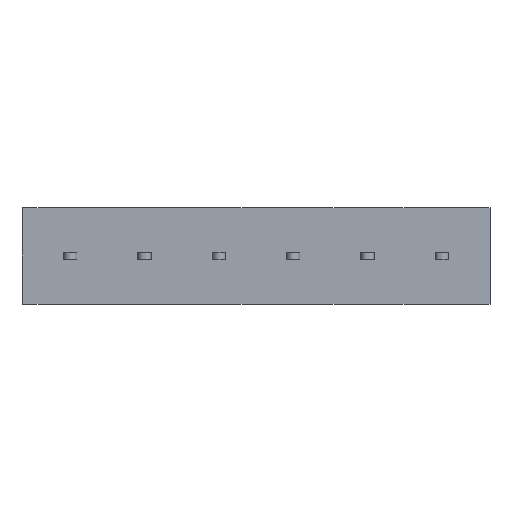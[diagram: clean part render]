
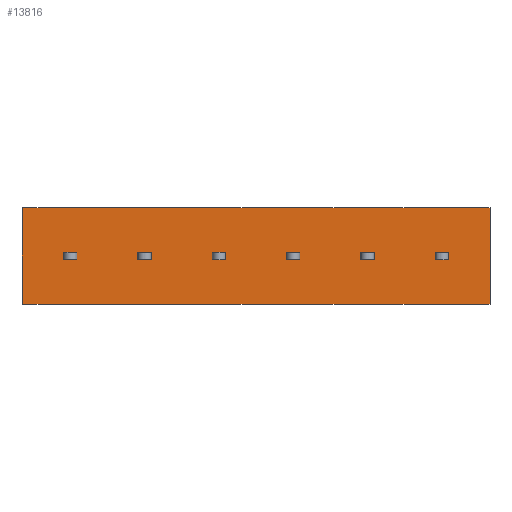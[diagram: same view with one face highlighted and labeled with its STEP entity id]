
A CAD part, front view. The second image highlights one B-rep face of the part: STEP entity #13816.
In plain terms, the highlighted planar face has unit normal (0, -1, 0).
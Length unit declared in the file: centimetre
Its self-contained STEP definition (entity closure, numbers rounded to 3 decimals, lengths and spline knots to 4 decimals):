
#688=VECTOR('',#14802,1.);
#691=VECTOR('',#14808,1.);
#700=VECTOR('',#14831,1.);
#703=VECTOR('',#14839,1.);
#1105=VECTOR('',#15383,1.);
#1194=VECTOR('',#15608,1.);
#1198=VECTOR('',#15613,1.);
#1209=VECTOR('',#15646,1.);
#1211=VECTOR('',#15649,1.);
#1312=VECTOR('',#15896,1.);
#1316=VECTOR('',#15901,1.);
#1327=VECTOR('',#15934,1.);
#1329=VECTOR('',#15937,1.);
#1430=VECTOR('',#16184,1.);
#1434=VECTOR('',#16189,1.);
#1445=VECTOR('',#16222,1.);
#1447=VECTOR('',#16225,1.);
#1548=VECTOR('',#16472,1.);
#1552=VECTOR('',#16477,1.);
#1563=VECTOR('',#16510,1.);
#1565=VECTOR('',#16513,1.);
#1666=VECTOR('',#16760,1.);
#1670=VECTOR('',#16765,1.);
#1681=VECTOR('',#16798,1.);
#1683=VECTOR('',#16801,1.);
#1732=VECTOR('',#16882,1.);
#1740=VECTOR('',#16891,1.);
#1741=VECTOR('',#16892,1.);
#2234=LINE('',#17736,#688);
#2237=LINE('',#17745,#691);
#2246=LINE('',#17768,#700);
#2249=LINE('',#17776,#703);
#2651=LINE('',#19280,#1105);
#2740=LINE('',#19590,#1194);
#2744=LINE('',#19599,#1198);
#2755=LINE('',#19634,#1209);
#2757=LINE('',#19638,#1211);
#2858=LINE('',#19972,#1312);
#2862=LINE('',#19981,#1316);
#2873=LINE('',#20016,#1327);
#2875=LINE('',#20020,#1329);
#2976=LINE('',#20354,#1430);
#2980=LINE('',#20363,#1434);
#2991=LINE('',#20398,#1445);
#2993=LINE('',#20402,#1447);
#3094=LINE('',#20736,#1548);
#3098=LINE('',#20745,#1552);
#3109=LINE('',#20780,#1563);
#3111=LINE('',#20784,#1565);
#3212=LINE('',#21118,#1666);
#3216=LINE('',#21127,#1670);
#3227=LINE('',#21162,#1681);
#3229=LINE('',#21166,#1683);
#3278=LINE('',#21267,#1732);
#3286=LINE('',#21284,#1740);
#3287=LINE('',#21285,#1741);
#3795=VERTEX_POINT('',#17737);
#3796=VERTEX_POINT('',#17738);
#3799=VERTEX_POINT('',#17746);
#3804=VERTEX_POINT('',#17769);
#4142=VERTEX_POINT('',#19278);
#4144=VERTEX_POINT('',#19281);
#4240=VERTEX_POINT('',#19591);
#4241=VERTEX_POINT('',#19592);
#4244=VERTEX_POINT('',#19600);
#4255=VERTEX_POINT('',#19635);
#4354=VERTEX_POINT('',#19973);
#4355=VERTEX_POINT('',#19974);
#4358=VERTEX_POINT('',#19982);
#4369=VERTEX_POINT('',#20017);
#4468=VERTEX_POINT('',#20355);
#4469=VERTEX_POINT('',#20356);
#4472=VERTEX_POINT('',#20364);
#4483=VERTEX_POINT('',#20399);
#4582=VERTEX_POINT('',#20737);
#4583=VERTEX_POINT('',#20738);
#4586=VERTEX_POINT('',#20746);
#4597=VERTEX_POINT('',#20781);
#4696=VERTEX_POINT('',#21119);
#4697=VERTEX_POINT('',#21120);
#4700=VERTEX_POINT('',#21128);
#4711=VERTEX_POINT('',#21163);
#4736=VERTEX_POINT('',#21268);
#4737=VERTEX_POINT('',#21269);
#5421=EDGE_CURVE('',#3795,#3796,#2234,.T.);
#5425=EDGE_CURVE('',#3796,#3799,#2237,.T.);
#5437=EDGE_CURVE('',#3799,#3804,#2246,.T.);
#5441=EDGE_CURVE('',#3804,#3795,#2249,.T.);
#5949=EDGE_CURVE('',#4144,#4142,#2651,.T.);
#6084=EDGE_CURVE('',#4240,#4241,#2740,.T.);
#6088=EDGE_CURVE('',#4244,#4240,#2744,.T.);
#6105=EDGE_CURVE('',#4255,#4244,#2755,.T.);
#6107=EDGE_CURVE('',#4241,#4255,#2757,.T.);
#6254=EDGE_CURVE('',#4354,#4355,#2858,.T.);
#6258=EDGE_CURVE('',#4358,#4354,#2862,.T.);
#6275=EDGE_CURVE('',#4369,#4358,#2873,.T.);
#6277=EDGE_CURVE('',#4355,#4369,#2875,.T.);
#6424=EDGE_CURVE('',#4468,#4469,#2976,.T.);
#6428=EDGE_CURVE('',#4472,#4468,#2980,.T.);
#6445=EDGE_CURVE('',#4483,#4472,#2991,.T.);
#6447=EDGE_CURVE('',#4469,#4483,#2993,.T.);
#6594=EDGE_CURVE('',#4582,#4583,#3094,.T.);
#6598=EDGE_CURVE('',#4586,#4582,#3098,.T.);
#6615=EDGE_CURVE('',#4597,#4586,#3109,.T.);
#6617=EDGE_CURVE('',#4583,#4597,#3111,.T.);
#6764=EDGE_CURVE('',#4696,#4697,#3212,.T.);
#6768=EDGE_CURVE('',#4700,#4696,#3216,.T.);
#6785=EDGE_CURVE('',#4711,#4700,#3227,.T.);
#6787=EDGE_CURVE('',#4697,#4711,#3229,.T.);
#6838=EDGE_CURVE('',#4736,#4737,#3278,.T.);
#6846=EDGE_CURVE('',#4737,#4144,#3286,.T.);
#6847=EDGE_CURVE('',#4736,#4142,#3287,.T.);
#10362=ORIENTED_EDGE('',*,*,#5437,.F.);
#10363=ORIENTED_EDGE('',*,*,#5425,.F.);
#10364=ORIENTED_EDGE('',*,*,#5421,.F.);
#10365=ORIENTED_EDGE('',*,*,#5441,.F.);
#10366=ORIENTED_EDGE('',*,*,#6088,.T.);
#10367=ORIENTED_EDGE('',*,*,#6084,.T.);
#10368=ORIENTED_EDGE('',*,*,#6107,.T.);
#10369=ORIENTED_EDGE('',*,*,#6105,.T.);
#10370=ORIENTED_EDGE('',*,*,#6258,.T.);
#10371=ORIENTED_EDGE('',*,*,#6254,.T.);
#10372=ORIENTED_EDGE('',*,*,#6277,.T.);
#10373=ORIENTED_EDGE('',*,*,#6275,.T.);
#10374=ORIENTED_EDGE('',*,*,#6428,.T.);
#10375=ORIENTED_EDGE('',*,*,#6424,.T.);
#10376=ORIENTED_EDGE('',*,*,#6447,.T.);
#10377=ORIENTED_EDGE('',*,*,#6445,.T.);
#10378=ORIENTED_EDGE('',*,*,#6598,.T.);
#10379=ORIENTED_EDGE('',*,*,#6594,.T.);
#10380=ORIENTED_EDGE('',*,*,#6617,.T.);
#10381=ORIENTED_EDGE('',*,*,#6615,.T.);
#10382=ORIENTED_EDGE('',*,*,#6768,.T.);
#10383=ORIENTED_EDGE('',*,*,#6764,.T.);
#10384=ORIENTED_EDGE('',*,*,#6787,.T.);
#10385=ORIENTED_EDGE('',*,*,#6785,.T.);
#10386=ORIENTED_EDGE('',*,*,#6846,.T.);
#10387=ORIENTED_EDGE('',*,*,#5949,.T.);
#10388=ORIENTED_EDGE('',*,*,#6847,.F.);
#10389=ORIENTED_EDGE('',*,*,#6838,.T.);
#12156=EDGE_LOOP('',(#10362,#10363,#10364,#10365));
#12157=EDGE_LOOP('',(#10366,#10367,#10368,#10369));
#12158=EDGE_LOOP('',(#10370,#10371,#10372,#10373));
#12159=EDGE_LOOP('',(#10374,#10375,#10376,#10377));
#12160=EDGE_LOOP('',(#10378,#10379,#10380,#10381));
#12161=EDGE_LOOP('',(#10382,#10383,#10384,#10385));
#12162=EDGE_LOOP('',(#10386,#10387,#10388,#10389));
#13020=FACE_BOUND('',#12156,.T.);
#13021=FACE_BOUND('',#12157,.T.);
#13022=FACE_BOUND('',#12158,.T.);
#13023=FACE_BOUND('',#12159,.T.);
#13024=FACE_BOUND('',#12160,.T.);
#13025=FACE_BOUND('',#12161,.T.);
#13026=FACE_BOUND('',#12162,.T.);
#13816=ADVANCED_FACE('',(#13020,#13021,#13022,#13023,#13024,#13025,#13026),
#14452,.T.);
#14452=PLANE('',#23630);
#14802=DIRECTION('',(-1.,0.,0.));
#14808=DIRECTION('',(0.,0.,-1.));
#14831=DIRECTION('',(1.,0.,0.));
#14839=DIRECTION('',(0.,0.,1.));
#15383=DIRECTION('',(0.,0.,1.));
#15608=DIRECTION('',(0.,0.,1.));
#15613=DIRECTION('',(-1.,0.,0.));
#15646=DIRECTION('',(0.,0.,-1.));
#15649=DIRECTION('',(1.,0.,0.));
#15896=DIRECTION('',(0.,0.,1.));
#15901=DIRECTION('',(-1.,0.,0.));
#15934=DIRECTION('',(0.,0.,-1.));
#15937=DIRECTION('',(1.,0.,0.));
#16184=DIRECTION('',(0.,0.,1.));
#16189=DIRECTION('',(-1.,0.,0.));
#16222=DIRECTION('',(0.,0.,-1.));
#16225=DIRECTION('',(1.,0.,0.));
#16472=DIRECTION('',(0.,0.,1.));
#16477=DIRECTION('',(-1.,0.,0.));
#16510=DIRECTION('',(0.,0.,-1.));
#16513=DIRECTION('',(1.,0.,0.));
#16760=DIRECTION('',(0.,0.,1.));
#16765=DIRECTION('',(-1.,0.,0.));
#16798=DIRECTION('',(0.,0.,-1.));
#16801=DIRECTION('',(1.,0.,0.));
#16882=DIRECTION('',(0.,0.,-1.));
#16890=DIRECTION('',(0.,-1.,0.));
#16891=DIRECTION('',(1.,0.,0.));
#16892=DIRECTION('',(1.,0.,0.));
#17736=CARTESIAN_POINT('',(-0.63,0.,0.05));
#17737=CARTESIAN_POINT('',(-0.33,0.,0.05));
#17738=CARTESIAN_POINT('',(-0.51,0.,0.05));
#17745=CARTESIAN_POINT('',(-0.51,0.,-0.175));
#17746=CARTESIAN_POINT('',(-0.51,0.,-0.05));
#17768=CARTESIAN_POINT('',(-0.63,0.,-0.05));
#17769=CARTESIAN_POINT('',(-0.33,0.,-0.05));
#17776=CARTESIAN_POINT('',(-0.33,0.,-0.175));
#19278=CARTESIAN_POINT('',(5.23,0.,0.65));
#19280=CARTESIAN_POINT('',(5.23,0.,0.65));
#19281=CARTESIAN_POINT('',(5.23,0.,-0.65));
#19590=CARTESIAN_POINT('',(4.49,0.,-0.175));
#19591=CARTESIAN_POINT('',(4.49,0.,-0.05));
#19592=CARTESIAN_POINT('',(4.49,0.,0.05));
#19599=CARTESIAN_POINT('',(2.29,0.,-0.05));
#19600=CARTESIAN_POINT('',(4.67,0.,-0.05));
#19634=CARTESIAN_POINT('',(4.67,0.,-0.175));
#19635=CARTESIAN_POINT('',(4.67,0.,0.05));
#19638=CARTESIAN_POINT('',(2.29,0.,0.05));
#19972=CARTESIAN_POINT('',(3.49,0.,-0.175));
#19973=CARTESIAN_POINT('',(3.49,0.,-0.05));
#19974=CARTESIAN_POINT('',(3.49,0.,0.05));
#19981=CARTESIAN_POINT('',(1.79,0.,-0.05));
#19982=CARTESIAN_POINT('',(3.67,0.,-0.05));
#20016=CARTESIAN_POINT('',(3.67,0.,-0.175));
#20017=CARTESIAN_POINT('',(3.67,0.,0.05));
#20020=CARTESIAN_POINT('',(1.79,0.,0.05));
#20354=CARTESIAN_POINT('',(2.49,0.,-0.175));
#20355=CARTESIAN_POINT('',(2.49,0.,-0.05));
#20356=CARTESIAN_POINT('',(2.49,0.,0.05));
#20363=CARTESIAN_POINT('',(1.29,0.,-0.05));
#20364=CARTESIAN_POINT('',(2.67,0.,-0.05));
#20398=CARTESIAN_POINT('',(2.67,0.,-0.175));
#20399=CARTESIAN_POINT('',(2.67,0.,0.05));
#20402=CARTESIAN_POINT('',(1.29,0.,0.05));
#20736=CARTESIAN_POINT('',(1.49,0.,-0.175));
#20737=CARTESIAN_POINT('',(1.49,0.,-0.05));
#20738=CARTESIAN_POINT('',(1.49,0.,0.05));
#20745=CARTESIAN_POINT('',(0.79,0.,-0.05));
#20746=CARTESIAN_POINT('',(1.67,0.,-0.05));
#20780=CARTESIAN_POINT('',(1.67,0.,-0.175));
#20781=CARTESIAN_POINT('',(1.67,0.,0.05));
#20784=CARTESIAN_POINT('',(0.79,0.,0.05));
#21118=CARTESIAN_POINT('',(0.49,0.,-0.175));
#21119=CARTESIAN_POINT('',(0.49,0.,-0.05));
#21120=CARTESIAN_POINT('',(0.49,0.,0.05));
#21127=CARTESIAN_POINT('',(0.29,0.,-0.05));
#21128=CARTESIAN_POINT('',(0.67,0.,-0.05));
#21162=CARTESIAN_POINT('',(0.67,0.,-0.175));
#21163=CARTESIAN_POINT('',(0.67,0.,0.05));
#21166=CARTESIAN_POINT('',(0.29,0.,0.05));
#21267=CARTESIAN_POINT('',(-1.07,0.,0.65));
#21268=CARTESIAN_POINT('',(-1.07,0.,0.65));
#21269=CARTESIAN_POINT('',(-1.07,0.,-0.65));
#21283=CARTESIAN_POINT('',(-1.07,0.,0.));
#21284=CARTESIAN_POINT('',(-1.07,0.,-0.65));
#21285=CARTESIAN_POINT('',(-1.07,0.,0.65));
#23630=AXIS2_PLACEMENT_3D('',#21283,#16890,$);
